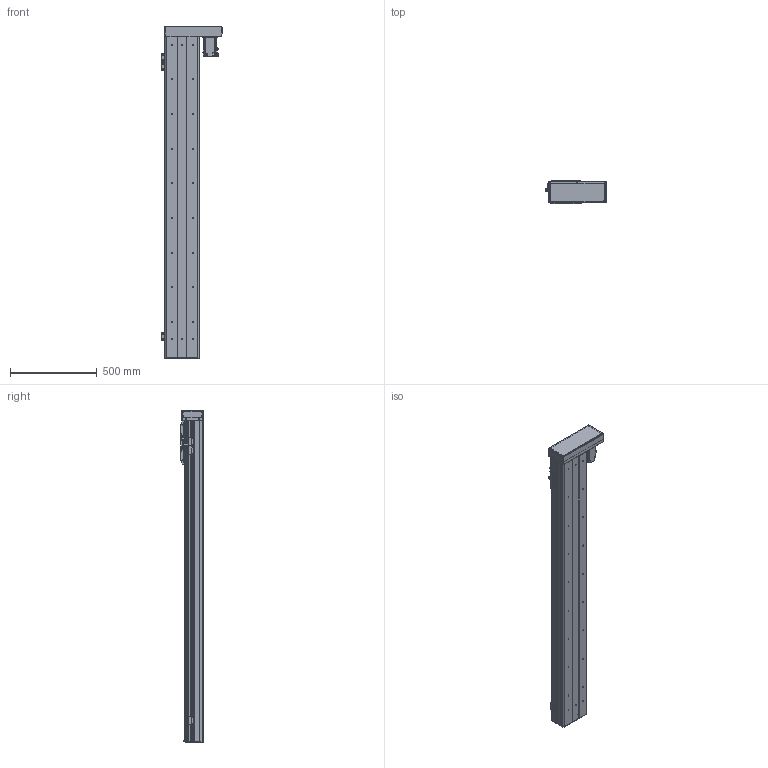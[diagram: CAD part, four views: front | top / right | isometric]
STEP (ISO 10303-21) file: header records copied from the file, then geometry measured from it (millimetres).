
FILE_DESCRIPTION(/* description */ ('MANUFACTURE'),/* implementation_level */ '2;1');
FILE_NAME(/* name */ '\\192.168.0.160\disk1\HAN SHIN Master\B-설계부문\C-표준\B-2024년\BC02-표준도면\+로봇 개선표준도면\표준 승인도 폴더 - 재작업\3D\HC Type\HC200\우병렬\HC200-R70-N-1600-L10.stp',/* time_stamp */ '2024-03-25T10:57:51+09:00',/* author */ ('User'),/* organization */ (''),/* preprocessor_version */ 'ST-DEVELOPER v18.1',/* originating_system */ 'Autodesk Inventor 2022',/* authorisation */ 'LIP');
FILE_SCHEMA (('AUTOMOTIVE_DESIGN { 1 0 10303 214 3 1 1 }'));
Products named in the file (28): HC200-R70-N-0500-L10 - 간소화; HC200 S BASE F - 1100ST; HC90 REAR COVER; HC200 TABLE COVER - 개주; HC200-STEEL SHEET F - 1100ST; LMKE2020 NUT; HR180 FRONT BLOCK; HR120 STOPPER; HC200 TABLE; HR180 FRONT BLOCK_1; HC200 SIDE COVER F - 1100ST; HC140 SHEET PLATE; HC65 TABLE SIDE COVER; M-5UT; M-5H-4; hg-kr73_; 750W MOTOR PLATE; HR200 ACRYL COVER -1; HR200 ACRYL COVER -1_1; HR160 400W LR BELT COVER; HR200 ACRYL COVER -1_2; 화살표; HG200 750W LR MOTOR PLATE_MIR; HC75 SENSOR DOG; SENSOR BRK(EE-SX674A); EE_SX674A; hsr_ftht_A-M6F_grease_nipple_joint; NIPPLE CAP(신규)
Assembly tree (49 placements, depth 2):
  HC200-R70-N-0500-L10 - 간소화
    HC200 S BASE F - 1100ST
    HC90 REAR COVER
    HC200 TABLE COVER - 개주
    HC65 TABLE SIDE COVER  x2
    HC200-STEEL SHEET F - 1100ST
    LMKE2020 NUT
    HR120 STOPPER  x2
    HR180 FRONT BLOCK
    HC200 SIDE COVER F - 1100ST  x2
    HC200 TABLE
    HR180 FRONT BLOCK_1
    HC140 SHEET PLATE  x2
    hsr_ftht_A-M6F_grease_nipple_joint  x5
    NIPPLE CAP(신규)  x5
    M-5UT  x2
    M-5H-4  x4
    hg-kr73_
    750W MOTOR PLATE
    HR200 ACRYL COVER -1
    HR200 ACRYL COVER -1_1
    HR200 ACRYL COVER -1_2  x2
    HR160 400W LR BELT COVER
    화살표  x2
    HG200 750W LR MOTOR PLATE_MIR
    HC75 SENSOR DOG
    SENSOR BRK(EE-SX674A)  x3
    EE_SX674A  x3
Bounding box: 351 x 132 x 1916 mm (x, y, z)
Volume: 13119839.1 mm3; surface area: 3968807.6 mm2
Topology: 51 solids, 51 shells, 4375 faces, 11908 edges, 7821 vertices
Faces by surface type: plane 3038, cylinder 889, cone 354, sphere 44, torus 30, bspline 20
Full cylindrical faces by diameter (mm): 1.8 x4, 2 x6, 2.459 x58, 2.5 x6, 3 x16, 3.242 x23, 3.4 x24, 3.5 x12, 4 x6, 4.134 x12, 4.5 x26, 4.917 x29, 5 x26, 5.5 x5, 5.6 x5, 5.9 x4, 6 x11, 6.5 x14, 6.6 x32, 6.647 x30, 6.8 x2, 7 x10, 7.6 x4, 8 x6, 9 x10, 9.5 x1, 10.5 x8, 11 x36, 19 x1, 20 x1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
Entity records: 112673 total; most frequent: CARTESIAN_POINT 20529, ORIENTED_EDGE 19068, DIRECTION 18066, EDGE_CURVE 9534, LINE 7848, VECTOR 7848, VERTEX_POINT 6347, AXIS2_PLACEMENT_3D 5109
